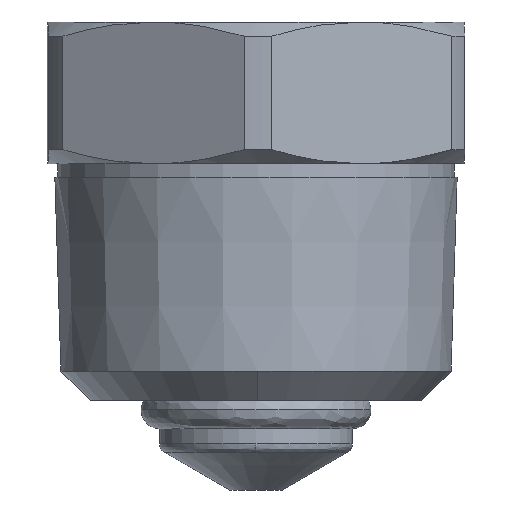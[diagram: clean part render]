
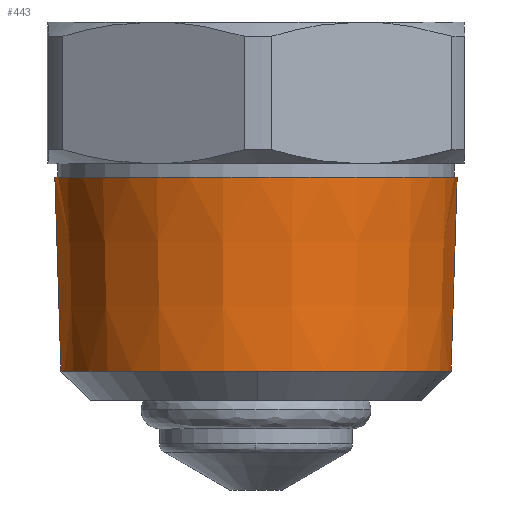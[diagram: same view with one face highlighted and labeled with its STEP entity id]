
A CAD part, left-side view. The second image highlights one B-rep face of the part: STEP entity #443.
In plain terms, the highlighted conical face has half-angle 1.79 degrees and reference radius 10.634 mm.
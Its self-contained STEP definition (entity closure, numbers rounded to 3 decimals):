
#19 = VERTEX_POINT ( 'NONE', #3795 ) ;
#316 = VERTEX_POINT ( 'NONE', #8431 ) ;
#443 = ADVANCED_FACE ( 'NONE', ( #11253 ), #2006, .T. ) ;
#498 = EDGE_CURVE ( 'NONE', #7603, #7136, #611, .T. ) ;
#611 = CIRCLE ( 'NONE', #11591, 10.634 ) ;
#746 = AXIS2_PLACEMENT_3D ( 'NONE', #11472, #2481, #3616 ) ;
#910 = LINE ( 'NONE', #5466, #14793 ) ;
#1424 = ORIENTED_EDGE ( 'NONE', *, *, #9423, .T. ) ;
#1455 = DIRECTION ( 'NONE',  ( 0., 0., 1. ) ) ;
#1558 = LINE ( 'NONE', #14137, #14170 ) ;
#2006 = CONICAL_SURFACE ( 'NONE', #7992, 10.634, 0.031 ) ;
#2037 = CARTESIAN_POINT ( 'NONE',  ( 0., -15.452, 0. ) ) ;
#2109 = DIRECTION ( 'NONE',  ( 0., -1., 0. ) ) ;
#2481 = DIRECTION ( 'NONE',  ( 0., 1., 0. ) ) ;
#3114 = CIRCLE ( 'NONE', #746, 10.313 ) ;
#3132 = ORIENTED_EDGE ( 'NONE', *, *, #5489, .T. ) ;
#3581 = ORIENTED_EDGE ( 'NONE', *, *, #498, .T. ) ;
#3616 = DIRECTION ( 'NONE',  ( 0., 0., 1. ) ) ;
#3795 = CARTESIAN_POINT ( 'NONE',  ( 0., -15.452, 10.313 ) ) ;
#4226 = DIRECTION ( 'NONE',  ( 0., 0., 1. ) ) ;
#4307 = CARTESIAN_POINT ( 'NONE',  ( 0., -5.2, -10.634 ) ) ;
#4703 = EDGE_CURVE ( 'NONE', #19, #7603, #910, .T. ) ;
#5399 = ORIENTED_EDGE ( 'NONE', *, *, #4703, .T. ) ;
#5466 = CARTESIAN_POINT ( 'NONE',  ( 0., -5.2, 10.634 ) ) ;
#5489 = EDGE_CURVE ( 'NONE', #316, #12284, #3114, .T. ) ;
#6617 = CARTESIAN_POINT ( 'NONE',  ( 0., -5.2, 10.634 ) ) ;
#7136 = VERTEX_POINT ( 'NONE', #4307 ) ;
#7603 = VERTEX_POINT ( 'NONE', #6617 ) ;
#7870 = DIRECTION ( 'NONE',  ( 0., 1., 0. ) ) ;
#7992 = AXIS2_PLACEMENT_3D ( 'NONE', #9910, #7870, #4226 ) ;
#8363 = EDGE_CURVE ( 'NONE', #316, #7136, #1558, .T. ) ;
#8431 = CARTESIAN_POINT ( 'NONE',  ( 0., -15.452, -10.313 ) ) ;
#8832 = DIRECTION ( 'NONE',  ( 0., 1., 0.031 ) ) ;
#9423 = EDGE_CURVE ( 'NONE', #12284, #19, #13287, .T. ) ;
#9779 = DIRECTION ( 'NONE',  ( 0., 1., -0.031 ) ) ;
#9906 = DIRECTION ( 'NONE',  ( 0., 0., 1. ) ) ;
#9910 = CARTESIAN_POINT ( 'NONE',  ( 0., -5.2, 0. ) ) ;
#10101 = EDGE_LOOP ( 'NONE', ( #11103, #3132, #1424, #5399, #3581 ) ) ;
#11103 = ORIENTED_EDGE ( 'NONE', *, *, #8363, .F. ) ;
#11253 = FACE_OUTER_BOUND ( 'NONE', #10101, .T. ) ;
#11472 = CARTESIAN_POINT ( 'NONE',  ( 0., -15.452, 0. ) ) ;
#11591 = AXIS2_PLACEMENT_3D ( 'NONE', #12386, #2109, #1455 ) ;
#12284 = VERTEX_POINT ( 'NONE', #14048 ) ;
#12381 = DIRECTION ( 'NONE',  ( 0., 1., 0. ) ) ;
#12386 = CARTESIAN_POINT ( 'NONE',  ( 0., -5.2, 0. ) ) ;
#13287 = CIRCLE ( 'NONE', #14255, 10.313 ) ;
#14048 = CARTESIAN_POINT ( 'NONE',  ( -10.313, -15.452, 0. ) ) ;
#14137 = CARTESIAN_POINT ( 'NONE',  ( 0., -5.2, -10.634 ) ) ;
#14170 = VECTOR ( 'NONE', #9779, 1000. ) ;
#14255 = AXIS2_PLACEMENT_3D ( 'NONE', #2037, #12381, #9906 ) ;
#14793 = VECTOR ( 'NONE', #8832, 1000. ) ;
